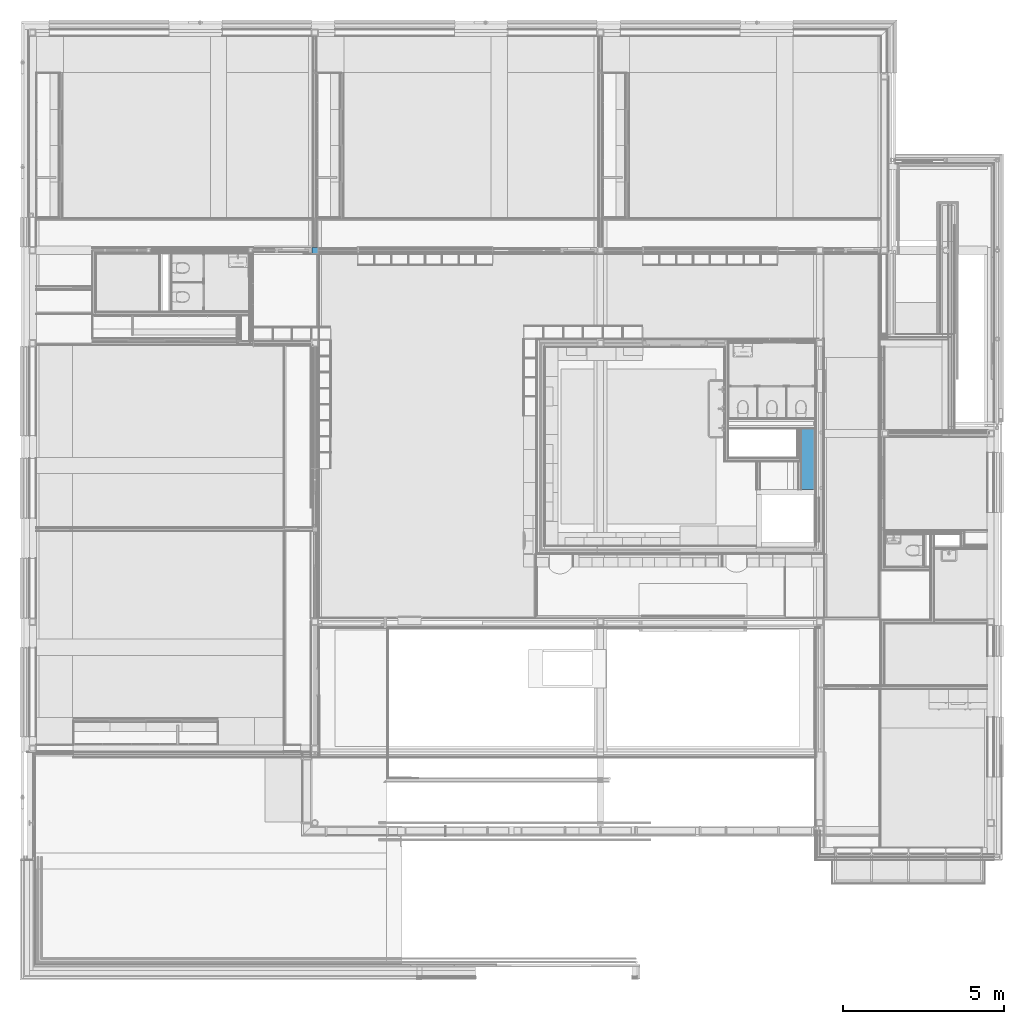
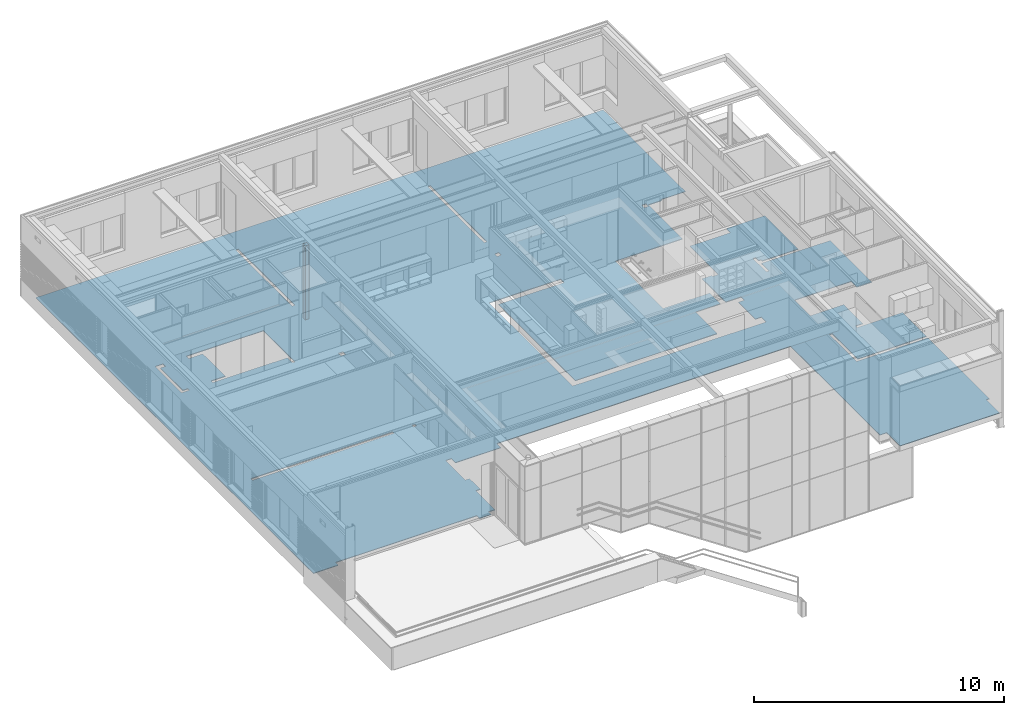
# One storey, part 80 of 137: 2 building element parts, 2 elements without a shape of their own.
"""IFC2X3 building model written with IfcOpenShell, lengths in millimetres."""

from ifc_helpers import new_model, entity, si_unit, converted_unit, derived_unit, money_unit, direction, frame, origin_with_axes, place, context, subcontext, project, spatial, faceted_brep, material, type_object, element, aggregate, save


model = new_model("IFC2X3")

# Units and contexts
model_context = context("Model", 3, precision=0.01, world=origin_with_axes(), true_north=direction((0.0, 1.0)))
body_context = subcontext(model_context, "Body", "Model", "MODEL_VIEW")
ifc_project = project(units=[si_unit("LENGTHUNIT", "METRE", prefix="MILLI"), si_unit("AREAUNIT", "SQUARE_METRE"), si_unit("VOLUMEUNIT", "CUBIC_METRE"), converted_unit("PLANEANGLEUNIT", "DEGREE", entity("IfcPlaneAngleMeasure", 0.0174532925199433), si_unit("PLANEANGLEUNIT", "RADIAN"), dimensions=[0, 0, 0, 0, 0, 0, 0]), money_unit("EUR"), converted_unit("TIMEUNIT", "Year", entity("IfcTimeMeasure", 31556926.0), si_unit("TIMEUNIT", "SECOND"), dimensions=[0, 0, 1, 0, 0, 0, 0]), si_unit("MASSUNIT", "GRAM", prefix="KILO"), si_unit("THERMODYNAMICTEMPERATUREUNIT", "DEGREE_CELSIUS"), si_unit("LUMINOUSINTENSITYUNIT", "LUMEN"), si_unit("ENERGYUNIT", "JOULE", prefix="MEGA"), derived_unit("THERMALCONDUCTANCEUNIT", [(si_unit("POWERUNIT", "WATT"), 1), (si_unit("LENGTHUNIT", "METRE"), -1), (si_unit("THERMODYNAMICTEMPERATUREUNIT", "KELVIN"), -1)]), derived_unit("SPECIFICHEATCAPACITYUNIT", [(si_unit("ENERGYUNIT", "JOULE"), 1), (si_unit("MASSUNIT", "GRAM", prefix="KILO"), -1), (si_unit("THERMODYNAMICTEMPERATUREUNIT", "KELVIN"), -1)]), derived_unit("MASSDENSITYUNIT", [(si_unit("MASSUNIT", "GRAM", prefix="KILO"), 1), (si_unit("VOLUMEUNIT", "CUBIC_METRE"), -1)])], contexts=[model_context])

# Site, building, storey
site_placement = place(None, origin_with_axes())
site = spatial("IfcSite", under=ifc_project, at=site_placement, Name="Site", CompositionType="ELEMENT")
building_placement = place(site_placement, origin_with_axes())
building = spatial("IfcBuilding", under=site, at=building_placement, Name="Naam gebouw", CompositionType="ELEMENT")
storey_placement = place(building_placement, frame((0.0, 0.0, 3960.0), z_axis=(0.0, 0.0, 1.0), x_axis=(1.0, 0.0, 0.0)))
storey = spatial("IfcBuildingStorey", under=building, at=storey_placement, Name="1e verdieping", CompositionType="ELEMENT", Elevation=3960.0)

# Column, building element part
column_type = type_object("IfcColumnType", Name="200X200X10 200 x 200", PredefinedType="COLUMN")
column_placement = place(storey_placement, frame((8850.000000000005, 22324.99984707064, -100.0000000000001), z_axis=(0.0, 0.0, 1.0), x_axis=(1.0, 0.0, 0.0)))
column = element("IfcColumn", 1, at=column_placement, inside=storey, type_object=column_type, Name="28_Kolom-x", ObjectType="COLUMN")
ifc_material_1 = material(Name="Beton gewapend C")
building_element_part_1_placement = place(column_placement, origin_with_axes())
building_element_part_1 = element("IfcBuildingElementPart", 2, at=building_element_part_1_placement, material=ifc_material_1, Name="Beton gewapend C", context=body_context, shape_type="Brep", body=[
    faceted_brep([(-89.99999999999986, -89.99999999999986, 3630.0), (-89.99999999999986, -89.99999999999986, 0.0), (89.99999999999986, -89.99999999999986, 0.0), (89.99999999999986, -89.99999999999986, 3630.0), (-89.99999999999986, 89.99999999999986, 3630.0), (-89.99999999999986, 89.99999999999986, 0.0), (89.99999999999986, 89.99999999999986, 0.0), (89.99999999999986, 89.99999999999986, 3630.0)], [[[0, 1, 2, 3]], [[4, 5, 1, 0]], [[2, 1, 5, 6]], [[3, 2, 6, 7]], [[4, 0, 3, 7]], [[7, 6, 5, 4]]]),
])
aggregate(column, [building_element_part_1])

# Slab, building element part
slab_type = type_object("IfcSlabType", Name="43 Zwevende dekvloer 100", PredefinedType="NOTDEFINED")
slab_placement = place(storey_placement, frame((214.0000000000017, 6779.999945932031, 0.0), z_axis=(0.0, 0.0, 1.0), x_axis=(1.0, 0.0, 0.0)))
slab = element("IfcSlab", 3, at=slab_placement, inside=storey, type_object=slab_type, Name="_Vloer-x", PredefinedType="NOTDEFINED")
ifc_material_2 = material(Name="Isolatie - XPS zwevende dekvloer")
building_element_part_2_placement = place(slab_placement, origin_with_axes())
building_element_part_2 = element("IfcBuildingElementPart", 4, at=building_element_part_2_placement, material=ifc_material_2, Name="Isolatie - XPS zwevende dekvloer", context=body_context, shape_type="Brep", body=[
    faceted_brep([(0.0, 0.0, -100.0000000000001), (1140.000000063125, 4.094751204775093e-07, -100.0000000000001), (1140.000000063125, 4.094751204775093e-07, -69.99999999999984), (0.0, 0.0, -69.99999999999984), (0.0, 22181.00005406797, -100.0000000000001), (26172.00000045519, 22181.00005406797, -100.0000000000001), (26172.00000208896, 15607.4762681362, -100.0000000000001), (25042.0, 15607.4762681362, -100.0000000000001), (25042.0, 15537.47628047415, -100.0000000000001), (24420.99903999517, 15537.47628047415, -100.0000000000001), (24420.99903999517, 12804.99986528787, -100.0000000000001), (21325.99903999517, 12804.99986528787, -100.0000000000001), (21325.99903999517, 8994.997835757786, -100.0000000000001), (23473.49903999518, 8994.997835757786, -100.0000000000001), (23473.49903999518, 8129.997756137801, -100.0000000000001), (22320.99903999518, 8129.997756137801, -100.0000000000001), (22320.99903999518, 6394.997835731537, -100.0000000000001), (15770.99909109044, 6394.997835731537, -100.0000000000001), (15770.99909109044, 12534.99986528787, -100.0000000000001), (18800.99945671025, 12534.99986528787, -100.0000000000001), (18800.99945671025, 12804.99986528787, -100.0000000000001), (15500.99945671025, 12804.99986528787, -100.0000000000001), (15500.99945671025, 6124.997835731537, -100.0000000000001), (24420.99903999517, 6124.997835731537, -100.0000000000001), (24420.99903999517, 6509.49775613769, -100.0000000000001), (24150.99903999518, 6509.49775613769, -100.0000000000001), (24150.99903999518, 7869.497756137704, -100.0000000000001), (24420.99903999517, 7869.497756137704, -100.0000000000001), (24420.99903999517, 8129.997756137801, -100.0000000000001), (23710.99903999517, 8129.997756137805, -100.0000000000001), (23710.99903999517, 8994.997835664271, -100.0000000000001), (23710.99903999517, 10009.99783573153, -100.0000000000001), (24150.99903999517, 10009.99783573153, -100.0000000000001), (24150.99903999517, 9939.9977561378, -100.0000000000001), (24420.99903999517, 9939.9977561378, -100.0000000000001), (24420.99903999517, 12223.49783573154, -100.0000000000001), (26172.0, 12223.49783573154, -100.0000000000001), (26297.0, 12223.49783573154, -100.0000000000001), (26297.0, 12556.0004469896, -100.0000000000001), (28072.00002397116, 12556.0004469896, -100.0000000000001), (28072.00002397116, 9880.997835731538, -100.0000000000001), (26406.0, 9880.997835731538, -100.0000000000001), (26406.0, 9969.997835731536, -100.0000000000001), (26297.0, 9969.997835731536, -100.0000000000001), (26297.0, 10213.49783573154, -100.0000000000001), (26172.0, 10213.49783573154, -100.0000000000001), (26172.0, 9149.997835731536, -100.0000000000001), (26297.0, 9149.997835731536, -100.0000000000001), (26297.0, 9755.997835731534, -100.0000000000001), (28072.00002397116, 9755.997835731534, -100.0000000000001), (29471.99999999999, 9755.997835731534, -100.0000000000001), (29472.00004882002, 6419.9978309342, -100.0000000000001), (28772.00012042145, 6419.997643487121, -100.0000000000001), (28771.99999991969, 6869.997835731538, -100.0000000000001), (26172.0000000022, 6869.997835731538, -100.0000000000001), (26172.0000000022, 5619.991642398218, -100.0000000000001), (27711.3020311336, 5619.992661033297, -100.0000000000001), (27710.99777863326, 5325.114129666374, -100.0000000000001), (27710.99764555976, 4092.500164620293, -100.0000000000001), (27377.0, 4092.500164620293, -100.0000000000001), (27377.0, 3967.500164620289, -100.0000000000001), (29471.99999999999, 3967.500164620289, -100.0000000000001), (29471.99999999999, 2060.000054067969, -100.0000000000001), (26297.0, 2060.000054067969, -100.0000000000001), (26297.0, 4092.500164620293, -100.0000000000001), (26172.00000000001, 4092.500164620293, -100.0000000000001), (26172.0, 1935.000054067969, -100.0000000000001), (29471.99999999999, 1935.000054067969, -100.0000000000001), (29471.99999999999, -2965.999945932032, -100.0000000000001), (29335.99978334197, -2966.000053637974, -100.0000000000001), (29335.99946050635, -4029.999945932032, -100.0000000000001), (24735.99903865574, -4029.999945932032, -100.0000000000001), (24735.99903913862, -2965.999945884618, -100.0000000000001), (24420.99915820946, -2965.999945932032, -100.0000000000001), (24420.99915820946, 4165.000164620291, -100.0000000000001), (10861.04559255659, 4165.000164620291, -100.0000000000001), (10861.04559255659, 3840.000164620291, -100.0000000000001), (8771.002391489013, 3840.000164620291, -100.0000000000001), (8771.002391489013, 4165.000164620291, -100.0000000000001), (8501.002391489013, 4165.000164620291, -100.0000000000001), (8501.002391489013, 2600.000164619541, -100.0000000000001), (8701.002391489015, 2600.000164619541, -100.0000000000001), (8701.002391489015, 1740.000164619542, -100.0000000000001), (8501.002391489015, 1740.000164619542, -100.0000000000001), (8501.002391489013, 214.0000012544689, -100.0000000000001), (8196.000001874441, 213.9996186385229, -100.0000000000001), (8195.999993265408, -0.0002842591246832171, -100.0000000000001), (7663.499996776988, -0.000262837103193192, -100.0000000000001), (7663.500005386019, 213.9997371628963, -100.0000000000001), (1139.999999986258, 213.9999995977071, -100.0000000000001), (1130.0, 6959.999865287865, -100.0000000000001), (1130.0, 6834.999865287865, -100.0000000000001), (7673.500000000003, 6834.999865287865, -100.0000000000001), (7673.500000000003, 6959.999865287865, -100.0000000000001), (1730.0, 15639.97626813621, -100.0000000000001), (1730.0, 13524.97626813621, -100.0000000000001), (2086.000021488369, 13524.97626813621, -100.0000000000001), (2086.000021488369, 13649.97626813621, -100.0000000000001), (1855.0, 13649.97626813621, -100.0000000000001), (1855.0, 15449.97626813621, -100.0000000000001), (2086.000021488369, 15449.97626813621, -100.0000000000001), (2086.000021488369, 15639.97626813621, -100.0000000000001), (3166.000021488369, 15639.97626813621, -100.0000000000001), (3166.000021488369, 15449.97626813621, -100.0000000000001), (3816.000021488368, 15449.97626813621, -100.0000000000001), (3816.000021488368, 13649.97626813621, -100.0000000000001), (3166.000021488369, 13649.97626813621, -100.0000000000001), (3166.000021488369, 13524.97626813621, -100.0000000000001), (6601.0, 13524.97626813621, -100.0000000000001), (6601.0, 13132.49986528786, -100.0000000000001), (6725.999999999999, 13132.49986528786, -100.0000000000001), (6725.999999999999, 15639.97626813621, -100.0000000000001), (8736.000000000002, 15444.99990113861, -100.0000000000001), (8736.000000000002, 15644.99990113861, -100.0000000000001), (8536.000000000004, 15644.99990113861, -100.0000000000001), (8536.000000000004, 15444.99990113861, -100.0000000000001), (8536.000000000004, 12769.99986528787, -100.0000000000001), (8536.000000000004, 12569.99986528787, -100.0000000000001), (8736.000000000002, 12569.99986528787, -100.0000000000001), (8736.000000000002, 12769.99986528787, -100.0000000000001), (8698.500000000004, 16544.99990113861, -100.0000000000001), (8698.500000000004, 21051.00005406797, -100.0000000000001), (8573.500000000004, 21051.00005406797, -100.0000000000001), (8573.500000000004, 16544.99990113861, -100.0000000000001), (8573.500000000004, 6959.999865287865, -100.0000000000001), (8573.500000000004, 6834.999865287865, -100.0000000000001), (8698.500000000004, 6834.999865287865, -100.0000000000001), (8698.500000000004, 6959.999865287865, -100.0000000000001), (17385.99942456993, 15444.99990113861, -100.0000000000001), (17585.99942456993, 15444.99990113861, -100.0000000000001), (17585.99942456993, 15644.99990113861, -100.0000000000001), (17385.99942456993, 15644.99990113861, -100.0000000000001), (17548.49942456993, 16544.99990113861, -100.0000000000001), (17548.49942456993, 21051.00005406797, -100.0000000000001), (17423.49942456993, 21051.00005406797, -100.0000000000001), (17423.49942456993, 16544.99990113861, -100.0000000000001), (24185.99903999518, 15444.99990113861, -100.0000000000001), (24385.99903999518, 15444.99990113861, -100.0000000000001), (24385.99903999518, 15644.99990113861, -100.0000000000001), (24185.99903999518, 15644.99990113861, -100.0000000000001), (1139.999999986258, 213.9999995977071, -69.99999999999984), (7663.500005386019, 213.9997371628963, -69.99999999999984), (7663.499996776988, -0.000262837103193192, -69.99999999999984), (8195.999993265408, -0.0002842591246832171, -69.99999999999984), (8196.000001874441, 213.9996186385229, -69.99999999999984), (8501.002391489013, 214.0000012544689, -69.99999999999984), (8501.002391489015, 1740.000164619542, -69.99999999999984), (8701.002391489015, 1740.000164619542, -69.99999999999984), (8701.002391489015, 2600.000164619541, -69.99999999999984), (8501.002391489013, 2600.000164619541, -69.99999999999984), (8501.002391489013, 4165.000164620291, -69.99999999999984), (8771.002391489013, 4165.000164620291, -69.99999999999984), (8771.002391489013, 3840.000164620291, -69.99999999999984), (10861.04559255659, 3840.000164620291, -69.99999999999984), (10861.04559255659, 4165.000164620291, -69.99999999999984), (24420.99915820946, 4165.000164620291, -69.99999999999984), (24420.99915820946, -2965.999945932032, -69.99999999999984), (24735.99903913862, -2965.999945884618, -69.99999999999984), (24735.99903865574, -4029.999945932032, -69.99999999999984), (29335.99946050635, -4029.999945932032, -69.99999999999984), (29335.99978334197, -2966.000053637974, -69.99999999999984), (29471.99999999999, -2965.999945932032, -69.99999999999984), (29471.99999999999, 1935.000054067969, -69.99999999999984), (26172.0, 1935.000054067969, -69.99999999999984), (26172.00000000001, 4092.500164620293, -69.99999999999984), (26297.0, 4092.500164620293, -69.99999999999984), (26297.0, 2060.000054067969, -69.99999999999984), (29471.99999999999, 2060.000054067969, -69.99999999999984), (29471.99999999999, 3967.500164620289, -69.99999999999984), (27377.0, 3967.500164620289, -69.99999999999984), (27377.0, 4092.500164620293, -69.99999999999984), (27710.99764555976, 4092.500164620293, -69.99999999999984), (27710.99777863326, 5325.114129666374, -69.99999999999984), (27711.3020311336, 5619.992661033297, -69.99999999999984), (26172.0000000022, 5619.991642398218, -69.99999999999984), (26172.0000000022, 6869.997835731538, -69.99999999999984), (28771.99999991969, 6869.997835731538, -69.99999999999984), (28772.00012042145, 6419.997643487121, -69.99999999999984), (29472.00004882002, 6419.9978309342, -69.99999999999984), (29471.99999999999, 9755.997835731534, -69.99999999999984), (28072.00002397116, 9755.997835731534, -69.99999999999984), (26297.0, 9755.997835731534, -69.99999999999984), (26297.0, 9149.997835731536, -69.99999999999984), (26172.0, 9149.997835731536, -69.99999999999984), (26172.0, 10213.49783573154, -69.99999999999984), (26297.0, 10213.49783573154, -69.99999999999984), (26297.0, 9969.997835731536, -69.99999999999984), (26406.0, 9969.997835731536, -69.99999999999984), (26406.0, 9880.997835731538, -69.99999999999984), (28072.00002397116, 9880.997835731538, -69.99999999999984), (28072.00002397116, 12556.0004469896, -69.99999999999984), (26297.0, 12556.0004469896, -69.99999999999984), (26297.0, 12223.49783573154, -69.99999999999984), (26172.0, 12223.49783573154, -69.99999999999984), (24420.99903999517, 12223.49783573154, -69.99999999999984), (24420.99903999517, 9939.9977561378, -69.99999999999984), (24150.99903999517, 9939.9977561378, -69.99999999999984), (24150.99903999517, 10009.99783573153, -69.99999999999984), (23710.99903999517, 10009.99783573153, -69.99999999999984), (23710.99903999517, 8994.997835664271, -69.99999999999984), (23710.99903999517, 8129.997756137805, -69.99999999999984), (24420.99903999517, 8129.997756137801, -69.99999999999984), (24420.99903999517, 7869.497756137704, -69.99999999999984), (24150.99903999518, 7869.497756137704, -69.99999999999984), (24150.99903999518, 6509.49775613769, -69.99999999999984), (24420.99903999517, 6509.49775613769, -69.99999999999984), (24420.99903999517, 6124.997835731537, -69.99999999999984), (15500.99945671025, 6124.997835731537, -69.99999999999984), (15500.99945671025, 12804.99986528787, -69.99999999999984), (18800.99945671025, 12804.99986528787, -69.99999999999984), (18800.99945671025, 12534.99986528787, -69.99999999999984), (15770.99909109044, 12534.99986528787, -69.99999999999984), (15770.99909109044, 6394.997835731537, -69.99999999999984), (22320.99903999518, 6394.997835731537, -69.99999999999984), (22320.99903999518, 8129.997756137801, -69.99999999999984), (23473.49903999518, 8129.997756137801, -69.99999999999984), (23473.49903999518, 8994.997835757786, -69.99999999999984), (21325.99903999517, 8994.997835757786, -69.99999999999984), (21325.99903999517, 12804.99986528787, -69.99999999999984), (24420.99903999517, 12804.99986528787, -69.99999999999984), (24420.99903999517, 15537.47628047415, -69.99999999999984), (25042.0, 15537.47628047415, -69.99999999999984), (25042.0, 15607.4762681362, -69.99999999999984), (26172.00000208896, 15607.4762681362, -69.99999999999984), (26172.00000045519, 22181.00005406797, -69.99999999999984), (0.0, 22181.00005406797, -69.99999999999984), (1130.0, 6959.999865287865, -69.99999999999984), (7673.500000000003, 6959.999865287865, -69.99999999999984), (7673.500000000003, 6834.999865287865, -69.99999999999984), (1130.0, 6834.999865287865, -69.99999999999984), (1730.0, 15639.97626813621, -69.99999999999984), (2086.000021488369, 15639.97626813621, -69.99999999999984), (2086.000021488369, 15449.97626813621, -69.99999999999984), (1855.0, 15449.97626813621, -69.99999999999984), (1855.0, 13649.97626813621, -69.99999999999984), (2086.000021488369, 13649.97626813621, -69.99999999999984), (2086.000021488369, 13524.97626813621, -69.99999999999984), (1730.0, 13524.97626813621, -69.99999999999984), (3166.000021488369, 15639.97626813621, -69.99999999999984), (6725.999999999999, 15639.97626813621, -69.99999999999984), (6725.999999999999, 13132.49986528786, -69.99999999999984), (6601.0, 13132.49986528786, -69.99999999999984), (6601.0, 13524.97626813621, -69.99999999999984), (3166.000021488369, 13524.97626813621, -69.99999999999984), (3166.000021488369, 13649.97626813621, -69.99999999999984), (3816.000021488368, 13649.97626813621, -69.99999999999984), (3816.000021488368, 15449.97626813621, -69.99999999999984), (3166.000021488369, 15449.97626813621, -69.99999999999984), (8736.000000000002, 15444.99990113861, -69.99999999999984), (8536.000000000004, 15444.99990113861, -69.99999999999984), (8536.000000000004, 15644.99990113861, -69.99999999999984), (8736.000000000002, 15644.99990113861, -69.99999999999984), (8536.000000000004, 12769.99986528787, -69.99999999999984), (8736.000000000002, 12769.99986528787, -69.99999999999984), (8736.000000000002, 12569.99986528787, -69.99999999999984), (8536.000000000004, 12569.99986528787, -69.99999999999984), (8698.500000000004, 16544.99990113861, -69.99999999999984), (8573.500000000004, 16544.99990113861, -69.99999999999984), (8573.500000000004, 21051.00005406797, -69.99999999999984), (8698.500000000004, 21051.00005406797, -69.99999999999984), (8573.500000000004, 6959.999865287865, -69.99999999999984), (8698.500000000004, 6959.999865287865, -69.99999999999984), (8698.500000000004, 6834.999865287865, -69.99999999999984), (8573.500000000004, 6834.999865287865, -69.99999999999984), (17385.99942456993, 15444.99990113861, -69.99999999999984), (17385.99942456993, 15644.99990113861, -69.99999999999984), (17585.99942456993, 15644.99990113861, -69.99999999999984), (17585.99942456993, 15444.99990113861, -69.99999999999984), (17548.49942456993, 16544.99990113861, -69.99999999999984), (17423.49942456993, 16544.99990113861, -69.99999999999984), (17423.49942456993, 21051.00005406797, -69.99999999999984), (17548.49942456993, 21051.00005406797, -69.99999999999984), (24185.99903999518, 15444.99990113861, -69.99999999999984), (24185.99903999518, 15644.99990113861, -69.99999999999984), (24385.99903999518, 15644.99990113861, -69.99999999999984), (24385.99903999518, 15444.99990113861, -69.99999999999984)], [[[0, 1, 2, 3]], [[0, 4, 5, 6, 7, 8, 9, 10, 11, 12, 13, 14, 15, 16, 17, 18, 19, 20, 21, 22, 23, 24, 25, 26, 27, 28, 29, 30, 31, 32, 33, 34, 35, 36, 37, 38, 39, 40, 41, 42, 43, 44, 45, 46, 47, 48, 49, 50, 51, 52, 53, 54, 55, 56, 57, 58, 59, 60, 61, 62, 63, 64, 65, 66, 67, 68, 69, 70, 71, 72, 73, 74, 75, 76, 77, 78, 79, 80, 81, 82, 83, 84, 85, 86, 87, 88, 89, 1], [90, 91, 92, 93], [94, 95, 96, 97, 98, 99, 100, 101], [102, 103, 104, 105, 106, 107, 108, 109, 110, 111], [112, 113, 114, 115], [116, 117, 118, 119], [120, 121, 122, 123], [124, 125, 126, 127], [128, 129, 130, 131], [132, 133, 134, 135], [136, 137, 138, 139]], [[1, 89, 140, 2]], [[3, 2, 140, 141, 142, 143, 144, 145, 146, 147, 148, 149, 150, 151, 152, 153, 154, 155, 156, 157, 158, 159, 160, 161, 162, 163, 164, 165, 166, 167, 168, 169, 170, 171, 172, 173, 174, 175, 176, 177, 178, 179, 180, 181, 182, 183, 184, 185, 186, 187, 188, 189, 190, 191, 192, 193, 194, 195, 196, 197, 198, 199, 200, 201, 202, 203, 204, 205, 206, 207, 208, 209, 210, 211, 212, 213, 214, 215, 216, 217, 218, 219, 220, 221, 222, 223, 224, 225], [226, 227, 228, 229], [230, 231, 232, 233, 234, 235, 236, 237], [238, 239, 240, 241, 242, 243, 244, 245, 246, 247], [248, 249, 250, 251], [252, 253, 254, 255], [256, 257, 258, 259], [260, 261, 262, 263], [264, 265, 266, 267], [268, 269, 270, 271], [272, 273, 274, 275]], [[4, 0, 3, 225]], [[5, 4, 225, 224]], [[6, 5, 224, 223]], [[7, 6, 223, 222]], [[8, 7, 222, 221]], [[9, 8, 221, 220]], [[10, 9, 220, 219]], [[11, 10, 219, 218]], [[12, 11, 218, 217]], [[13, 12, 217, 216]], [[14, 13, 216, 215]], [[15, 14, 215, 214]], [[16, 15, 214, 213]], [[17, 16, 213, 212]], [[18, 17, 212, 211]], [[19, 18, 211, 210]], [[20, 19, 210, 209]], [[21, 20, 209, 208]], [[22, 21, 208, 207]], [[23, 22, 207, 206]], [[24, 23, 206, 205]], [[25, 24, 205, 204]], [[26, 25, 204, 203]], [[27, 26, 203, 202]], [[28, 27, 202, 201]], [[29, 28, 201, 200]], [[30, 29, 200, 199]], [[31, 30, 199, 198]], [[32, 31, 198, 197]], [[33, 32, 197, 196]], [[34, 33, 196, 195]], [[35, 34, 195, 194]], [[36, 35, 194, 193]], [[37, 36, 193, 192]], [[38, 37, 192, 191]], [[39, 38, 191, 190]], [[40, 39, 190, 189]], [[41, 40, 189, 188]], [[42, 41, 188, 187]], [[43, 42, 187, 186]], [[44, 43, 186, 185]], [[45, 44, 185, 184]], [[46, 45, 184, 183]], [[47, 46, 183, 182]], [[48, 47, 182, 181]], [[49, 48, 181, 180]], [[50, 49, 180, 179]], [[51, 50, 179, 178]], [[52, 51, 178, 177]], [[53, 52, 177, 176]], [[54, 53, 176, 175]], [[55, 54, 175, 174]], [[56, 55, 174, 173]], [[57, 56, 173, 172]], [[58, 57, 172, 171]], [[59, 58, 171, 170]], [[60, 59, 170, 169]], [[61, 60, 169, 168]], [[62, 61, 168, 167]], [[63, 62, 167, 166]], [[64, 63, 166, 165]], [[65, 64, 165, 164]], [[66, 65, 164, 163]], [[67, 66, 163, 162]], [[68, 67, 162, 161]], [[69, 68, 161, 160]], [[70, 69, 160, 159]], [[71, 70, 159, 158]], [[72, 71, 158, 157]], [[73, 72, 157, 156]], [[74, 73, 156, 155]], [[75, 74, 155, 154]], [[76, 75, 154, 153]], [[77, 76, 153, 152]], [[78, 77, 152, 151]], [[79, 78, 151, 150]], [[80, 79, 150, 149]], [[81, 80, 149, 148]], [[82, 81, 148, 147]], [[83, 82, 147, 146]], [[84, 83, 146, 145]], [[85, 84, 145, 144]], [[86, 85, 144, 143]], [[87, 86, 143, 142]], [[88, 87, 142, 141]], [[89, 88, 141, 140]], [[91, 90, 226, 229]], [[92, 91, 229, 228]], [[93, 92, 228, 227]], [[90, 93, 227, 226]], [[95, 94, 230, 237]], [[96, 95, 237, 236]], [[97, 96, 236, 235]], [[98, 97, 235, 234]], [[99, 98, 234, 233]], [[100, 99, 233, 232]], [[101, 100, 232, 231]], [[94, 101, 231, 230]], [[103, 102, 238, 247]], [[104, 103, 247, 246]], [[105, 104, 246, 245]], [[106, 105, 245, 244]], [[107, 106, 244, 243]], [[108, 107, 243, 242]], [[109, 108, 242, 241]], [[110, 109, 241, 240]], [[111, 110, 240, 239]], [[102, 111, 239, 238]], [[113, 112, 248, 251]], [[114, 113, 251, 250]], [[115, 114, 250, 249]], [[112, 115, 249, 248]], [[117, 116, 252, 255]], [[118, 117, 255, 254]], [[119, 118, 254, 253]], [[116, 119, 253, 252]], [[121, 120, 256, 259]], [[122, 121, 259, 258]], [[123, 122, 258, 257]], [[120, 123, 257, 256]], [[125, 124, 260, 263]], [[126, 125, 263, 262]], [[127, 126, 262, 261]], [[124, 127, 261, 260]], [[129, 128, 264, 267]], [[130, 129, 267, 266]], [[131, 130, 266, 265]], [[128, 131, 265, 264]], [[133, 132, 268, 271]], [[134, 133, 271, 270]], [[135, 134, 270, 269]], [[132, 135, 269, 268]], [[137, 136, 272, 275]], [[138, 137, 275, 274]], [[139, 138, 274, 273]], [[136, 139, 273, 272]]]),
])
aggregate(slab, [building_element_part_2])

save(model, "model.ifc")
